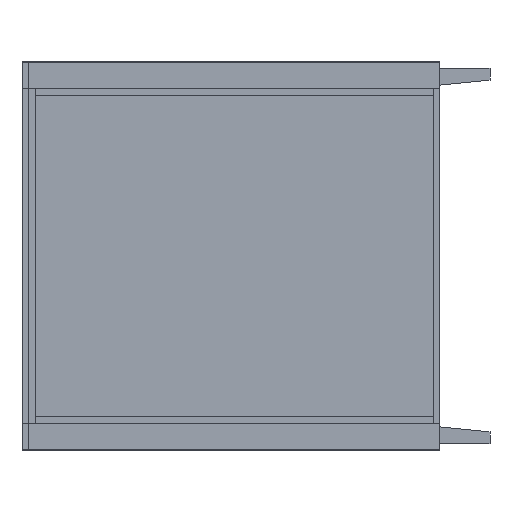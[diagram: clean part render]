
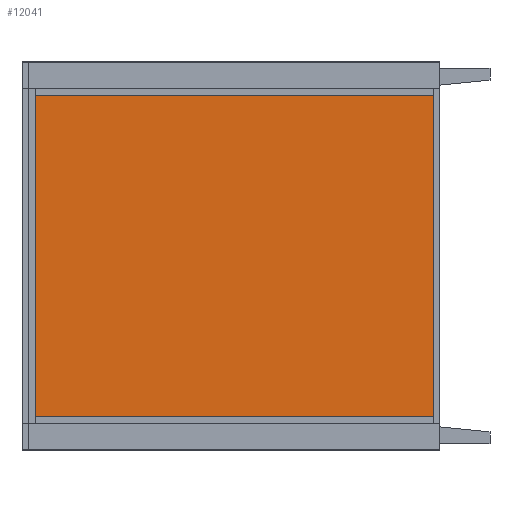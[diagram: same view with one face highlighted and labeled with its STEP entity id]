
A CAD part, left-side view. The second image highlights one B-rep face of the part: STEP entity #12041.
In plain terms, the highlighted planar face has unit normal (-1, 0, 0).
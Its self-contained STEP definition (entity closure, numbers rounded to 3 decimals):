
#1077 = DIRECTION ( 'NONE',  ( 0., 0., 1. ) ) ;
#1753 = LINE ( 'NONE', #2111, #3410 ) ;
#2111 = CARTESIAN_POINT ( 'NONE',  ( 0., 19., -481. ) ) ;
#2265 = CARTESIAN_POINT ( 'NONE',  ( 0., 1211., 481. ) ) ;
#2305 = EDGE_CURVE ( 'NONE', #5568, #8854, #9399, .T. ) ;
#2938 = ORIENTED_EDGE ( 'NONE', *, *, #15842, .T. ) ;
#3224 = FACE_OUTER_BOUND ( 'NONE', #7542, .T. ) ;
#3410 = VECTOR ( 'NONE', #1077, 1000. ) ;
#3809 = DIRECTION ( 'NONE',  ( 0., -1., 0. ) ) ;
#3934 = CARTESIAN_POINT ( 'NONE',  ( 0., 19., -481. ) ) ;
#4338 = AXIS2_PLACEMENT_3D ( 'NONE', #6131, #5058, #3809 ) ;
#4784 = LINE ( 'NONE', #5978, #15896 ) ;
#5058 = DIRECTION ( 'NONE',  ( -1., 0., 0. ) ) ;
#5423 = ORIENTED_EDGE ( 'NONE', *, *, #15455, .T. ) ;
#5511 = DIRECTION ( 'NONE',  ( 0., -1., 0. ) ) ;
#5568 = VERTEX_POINT ( 'NONE', #9444 ) ;
#5978 = CARTESIAN_POINT ( 'NONE',  ( 0., 1211., -481. ) ) ;
#6131 = CARTESIAN_POINT ( 'NONE',  ( 0., 0., 0. ) ) ;
#6614 = ORIENTED_EDGE ( 'NONE', *, *, #2305, .T. ) ;
#6995 = LINE ( 'NONE', #11183, #15763 ) ;
#7542 = EDGE_LOOP ( 'NONE', ( #6614, #2938, #5423, #8486 ) ) ;
#7547 = EDGE_CURVE ( 'NONE', #12261, #5568, #4784, .T. ) ;
#8486 = ORIENTED_EDGE ( 'NONE', *, *, #7547, .T. ) ;
#8854 = VERTEX_POINT ( 'NONE', #3934 ) ;
#9135 = CARTESIAN_POINT ( 'NONE',  ( 0., 19., 481. ) ) ;
#9366 = VERTEX_POINT ( 'NONE', #9135 ) ;
#9399 = LINE ( 'NONE', #13469, #16136 ) ;
#9444 = CARTESIAN_POINT ( 'NONE',  ( 0., 1211., -481. ) ) ;
#11183 = CARTESIAN_POINT ( 'NONE',  ( 0., 1211., 481. ) ) ;
#12041 = ADVANCED_FACE ( 'NONE', ( #3224 ), #14961, .T. ) ;
#12261 = VERTEX_POINT ( 'NONE', #2265 ) ;
#12272 = DIRECTION ( 'NONE',  ( 0., 1., 0. ) ) ;
#13469 = CARTESIAN_POINT ( 'NONE',  ( 0., 1211., -481. ) ) ;
#14961 = PLANE ( 'NONE',  #4338 ) ;
#15217 = DIRECTION ( 'NONE',  ( 0., 0., -1. ) ) ;
#15455 = EDGE_CURVE ( 'NONE', #9366, #12261, #6995, .T. ) ;
#15763 = VECTOR ( 'NONE', #12272, 1000. ) ;
#15842 = EDGE_CURVE ( 'NONE', #8854, #9366, #1753, .T. ) ;
#15896 = VECTOR ( 'NONE', #15217, 1000. ) ;
#16136 = VECTOR ( 'NONE', #5511, 1000. ) ;
